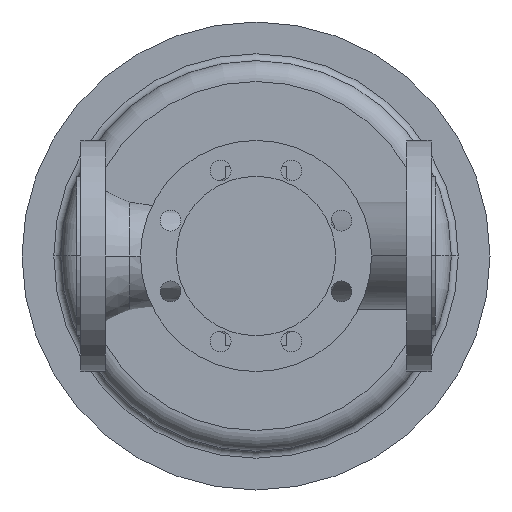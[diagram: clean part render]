
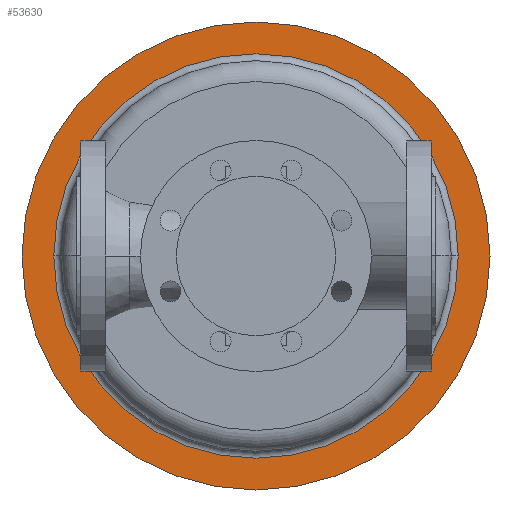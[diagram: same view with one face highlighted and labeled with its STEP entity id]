
A CAD part, front view. The second image highlights one B-rep face of the part: STEP entity #53630.
In plain terms, the highlighted planar face has unit normal (0, -1, 0).
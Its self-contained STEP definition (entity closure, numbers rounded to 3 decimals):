
#47620=CARTESIAN_POINT('',(-47.5,601.5,0.));
#47630=VERTEX_POINT('',#47620);
#47790=CARTESIAN_POINT('',(357.5,601.5,0.));
#47800=VERTEX_POINT('',#47790);
#47830=CARTESIAN_POINT('',(155.,601.5,0.));
#47840=DIRECTION('',(0.,1.,0.));
#47850=DIRECTION('',(1.,0.,0.));
#47860=AXIS2_PLACEMENT_3D('',#47830,#47840,#47850);
#47870=CIRCLE('',#47860,202.5);
#47880=EDGE_CURVE('',#47630,#47800,#47870,.T.);
#48050=CARTESIAN_POINT('',(-20.,601.5,0.));
#48060=VERTEX_POINT('',#48050);
#48090=CARTESIAN_POINT('',(155.,601.5,0.));
#48100=DIRECTION('',(0.,1.,0.));
#48110=DIRECTION('',(1.,0.,0.));
#48120=AXIS2_PLACEMENT_3D('',#48090,#48100,#48110);
#48130=CIRCLE('',#48120,175.);
#48140=CARTESIAN_POINT('',(330.,601.5,0.));
#48150=VERTEX_POINT('',#48140);
#48160=EDGE_CURVE('',#48060,#48150,#48130,.T.);
#53480=CARTESIAN_POINT('',(343.75,601.5,0.));
#53490=DIRECTION('',(0.,-1.,0.));
#53500=DIRECTION('',(-1.,0.,0.));
#53510=AXIS2_PLACEMENT_3D('',#53480,#53490,#53500);
#53520=PLANE('',#53510);
#53530=EDGE_CURVE('',#47800,#47630,#47870,.T.);
#53540=ORIENTED_EDGE('',*,*,#53530,.F.);
#53550=ORIENTED_EDGE('',*,*,#47880,.F.);
#53560=EDGE_LOOP('',(#53550,#53540));
#53570=FACE_OUTER_BOUND('',#53560,.T.);
#53580=EDGE_CURVE('',#48150,#48060,#48130,.T.);
#53590=ORIENTED_EDGE('',*,*,#53580,.T.);
#53600=ORIENTED_EDGE('',*,*,#48160,.T.);
#53610=EDGE_LOOP('',(#53600,#53590));
#53620=FACE_BOUND('',#53610,.T.);
#53630=ADVANCED_FACE('',(#53570,#53620),#53520,.T.);
